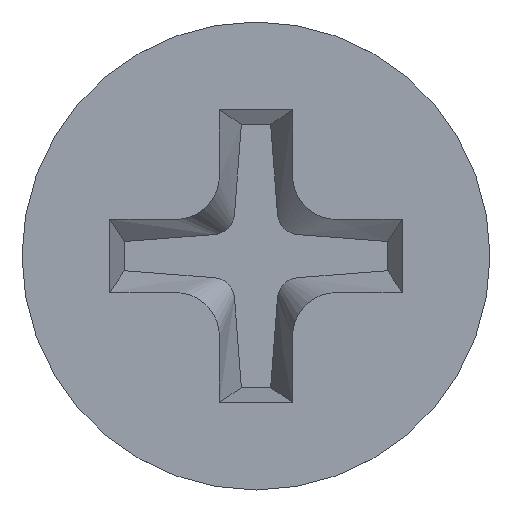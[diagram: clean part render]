
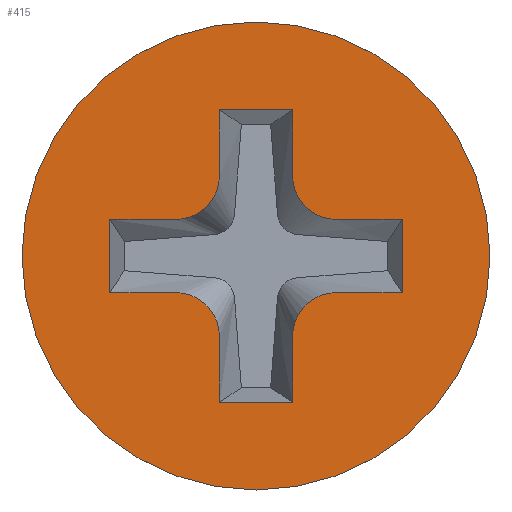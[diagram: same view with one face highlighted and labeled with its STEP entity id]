
A CAD part, top view. The second image highlights one B-rep face of the part: STEP entity #415.
In plain terms, the highlighted planar face has unit normal (0, 0, 1).
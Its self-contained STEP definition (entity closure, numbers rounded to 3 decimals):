
#4 = VERTEX_POINT ( 'NONE', #582 ) ;
#8 = CARTESIAN_POINT ( 'NONE',  ( -1., 0.25, 0.6 ) ) ;
#20 = EDGE_CURVE ( 'NONE', #82, #313, #211, .T. ) ;
#21 = CARTESIAN_POINT ( 'NONE',  ( 0.25, -1., 0.6 ) ) ;
#23 = DIRECTION ( 'NONE',  ( 1., 0., 0. ) ) ;
#26 = CARTESIAN_POINT ( 'NONE',  ( 1., -0.25, 0.6 ) ) ;
#52 = VECTOR ( 'NONE', #564, 1000. ) ;
#60 = VECTOR ( 'NONE', #641, 1000. ) ;
#73 = ORIENTED_EDGE ( 'NONE', *, *, #208, .F. ) ;
#82 = VERTEX_POINT ( 'NONE', #90 ) ;
#85 = DIRECTION ( 'NONE',  ( 0., 0., -1. ) ) ;
#90 = CARTESIAN_POINT ( 'NONE',  ( -0.55, 0.25, 0.6 ) ) ;
#116 = AXIS2_PLACEMENT_3D ( 'NONE', #256, #634, #756 ) ;
#120 = ORIENTED_EDGE ( 'NONE', *, *, #334, .F. ) ;
#126 = CARTESIAN_POINT ( 'NONE',  ( 0.25, 0.55, 0.6 ) ) ;
#128 = VECTOR ( 'NONE', #308, 1000. ) ;
#141 = DIRECTION ( 'NONE',  ( 1., 0., 0. ) ) ;
#145 = VERTEX_POINT ( 'NONE', #738 ) ;
#146 = CARTESIAN_POINT ( 'NONE',  ( 0.55, -0.55, 0.6 ) ) ;
#149 = VERTEX_POINT ( 'NONE', #802 ) ;
#150 = FACE_OUTER_BOUND ( 'NONE', #164, .T. ) ;
#155 = DIRECTION ( 'NONE',  ( 0., 0., 1. ) ) ;
#156 = EDGE_CURVE ( 'NONE', #149, #207, #642, .T. ) ;
#159 = LINE ( 'NONE', #355, #182 ) ;
#164 = EDGE_LOOP ( 'NONE', ( #813, #640 ) ) ;
#182 = VECTOR ( 'NONE', #547, 1000. ) ;
#184 = CARTESIAN_POINT ( 'NONE',  ( -0.25, -0.55, 0.6 ) ) ;
#198 = ORIENTED_EDGE ( 'NONE', *, *, #484, .F. ) ;
#205 = VERTEX_POINT ( 'NONE', #550 ) ;
#207 = VERTEX_POINT ( 'NONE', #810 ) ;
#208 = EDGE_CURVE ( 'NONE', #703, #145, #680, .T. ) ;
#211 = LINE ( 'NONE', #460, #229 ) ;
#217 = DIRECTION ( 'NONE',  ( 0., 0., 1. ) ) ;
#218 = DIRECTION ( 'NONE',  ( -1., 0., 0. ) ) ;
#221 = DIRECTION ( 'NONE',  ( 1., 0., 0. ) ) ;
#229 = VECTOR ( 'NONE', #669, 1000. ) ;
#230 = CIRCLE ( 'NONE', #116, 0.3 ) ;
#240 = CARTESIAN_POINT ( 'NONE',  ( -1., -0.25, 0.6 ) ) ;
#254 = VECTOR ( 'NONE', #221, 1000. ) ;
#256 = CARTESIAN_POINT ( 'NONE',  ( -0.55, -0.55, 0.6 ) ) ;
#258 = CARTESIAN_POINT ( 'NONE',  ( -1., 0.25, 0.6 ) ) ;
#262 = VECTOR ( 'NONE', #141, 1000. ) ;
#271 = EDGE_CURVE ( 'NONE', #722, #543, #501, .T. ) ;
#278 = DIRECTION ( 'NONE',  ( 1., 0., 0. ) ) ;
#287 = FACE_BOUND ( 'NONE', #392, .T. ) ;
#307 = CARTESIAN_POINT ( 'NONE',  ( 0.25, -1., 0.6 ) ) ;
#308 = DIRECTION ( 'NONE',  ( 0., -1., 0. ) ) ;
#311 = EDGE_CURVE ( 'NONE', #205, #411, #704, .T. ) ;
#313 = VERTEX_POINT ( 'NONE', #8 ) ;
#316 = EDGE_CURVE ( 'NONE', #411, #580, #393, .T. ) ;
#317 = DIRECTION ( 'NONE',  ( 1., 0., 0. ) ) ;
#322 = ORIENTED_EDGE ( 'NONE', *, *, #661, .F. ) ;
#325 = AXIS2_PLACEMENT_3D ( 'NONE', #764, #586, #278 ) ;
#328 = ORIENTED_EDGE ( 'NONE', *, *, #607, .F. ) ;
#331 = VECTOR ( 'NONE', #797, 1000. ) ;
#332 = DIRECTION ( 'NONE',  ( 0., 0., -1. ) ) ;
#334 = EDGE_CURVE ( 'NONE', #397, #350, #367, .T. ) ;
#337 = ORIENTED_EDGE ( 'NONE', *, *, #20, .F. ) ;
#343 = CARTESIAN_POINT ( 'NONE',  ( 0., 0., 0.6 ) ) ;
#350 = VERTEX_POINT ( 'NONE', #126 ) ;
#353 = CARTESIAN_POINT ( 'NONE',  ( 0., 0., 0.6 ) ) ;
#355 = CARTESIAN_POINT ( 'NONE',  ( 0.25, 0.55, 0.6 ) ) ;
#356 = CIRCLE ( 'NONE', #432, 0.3 ) ;
#359 = DIRECTION ( 'NONE',  ( 0., 0., 1. ) ) ;
#361 = VECTOR ( 'NONE', #503, 1000. ) ;
#367 = CIRCLE ( 'NONE', #325, 0.3 ) ;
#373 = VERTEX_POINT ( 'NONE', #519 ) ;
#376 = EDGE_CURVE ( 'NONE', #373, #205, #356, .T. ) ;
#377 = LINE ( 'NONE', #258, #361 ) ;
#379 = LINE ( 'NONE', #627, #536 ) ;
#382 = ORIENTED_EDGE ( 'NONE', *, *, #311, .F. ) ;
#385 = CARTESIAN_POINT ( 'NONE',  ( 1., 0.25, 0.6 ) ) ;
#390 = CARTESIAN_POINT ( 'NONE',  ( -0.55, 0.55, 0.6 ) ) ;
#391 = EDGE_CURVE ( 'NONE', #580, #397, #379, .T. ) ;
#392 = EDGE_LOOP ( 'NONE', ( #601, #322, #73, #328, #198, #820, #337, #596, #718, #711, #446, #120, #766, #499, #382, #698 ) ) ;
#393 = LINE ( 'NONE', #510, #60 ) ;
#397 = VERTEX_POINT ( 'NONE', #538 ) ;
#398 = DIRECTION ( 'NONE',  ( 0., -1., 0. ) ) ;
#399 = EDGE_CURVE ( 'NONE', #350, #643, #159, .T. ) ;
#400 = VERTEX_POINT ( 'NONE', #714 ) ;
#401 = LINE ( 'NONE', #21, #331 ) ;
#409 = DIRECTION ( 'NONE',  ( 1., 0., 0. ) ) ;
#410 = CIRCLE ( 'NONE', #542, 0.3 ) ;
#411 = VERTEX_POINT ( 'NONE', #26 ) ;
#415 = ADVANCED_FACE ( 'NONE', ( #287, #150 ), #417, .T. ) ;
#417 = PLANE ( 'NONE',  #790 ) ;
#432 = AXIS2_PLACEMENT_3D ( 'NONE', #146, #85, #23 ) ;
#438 = DIRECTION ( 'NONE',  ( 1., 0., 0. ) ) ;
#446 = ORIENTED_EDGE ( 'NONE', *, *, #399, .F. ) ;
#460 = CARTESIAN_POINT ( 'NONE',  ( -0.55, 0.25, 0.6 ) ) ;
#470 = LINE ( 'NONE', #727, #254 ) ;
#475 = VECTOR ( 'NONE', #438, 1000. ) ;
#479 = CARTESIAN_POINT ( 'NONE',  ( -0.25, -0.55, 0.6 ) ) ;
#484 = EDGE_CURVE ( 'NONE', #400, #4, #679, .T. ) ;
#499 = ORIENTED_EDGE ( 'NONE', *, *, #316, .F. ) ;
#501 = LINE ( 'NONE', #675, #710 ) ;
#503 = DIRECTION ( 'NONE',  ( 0., -1., 0. ) ) ;
#510 = CARTESIAN_POINT ( 'NONE',  ( 1., -0.25, 0.6 ) ) ;
#518 = VERTEX_POINT ( 'NONE', #307 ) ;
#519 = CARTESIAN_POINT ( 'NONE',  ( 0.25, -0.55, 0.6 ) ) ;
#526 = CIRCLE ( 'NONE', #617, 1.6 ) ;
#529 = CARTESIAN_POINT ( 'NONE',  ( 0., 0., 0.6 ) ) ;
#536 = VECTOR ( 'NONE', #218, 1000. ) ;
#538 = CARTESIAN_POINT ( 'NONE',  ( 0.55, 0.25, 0.6 ) ) ;
#542 = AXIS2_PLACEMENT_3D ( 'NONE', #390, #332, #317 ) ;
#543 = VERTEX_POINT ( 'NONE', #737 ) ;
#547 = DIRECTION ( 'NONE',  ( 0., 1., 0. ) ) ;
#550 = CARTESIAN_POINT ( 'NONE',  ( 0.55, -0.25, 0.6 ) ) ;
#561 = AXIS2_PLACEMENT_3D ( 'NONE', #343, #155, #409 ) ;
#564 = DIRECTION ( 'NONE',  ( -1., 0., 0. ) ) ;
#571 = CARTESIAN_POINT ( 'NONE',  ( 0.55, -0.25, 0.6 ) ) ;
#579 = LINE ( 'NONE', #773, #52 ) ;
#580 = VERTEX_POINT ( 'NONE', #385 ) ;
#582 = CARTESIAN_POINT ( 'NONE',  ( -0.55, -0.25, 0.6 ) ) ;
#584 = CARTESIAN_POINT ( 'NONE',  ( -0.25, 1., 0.6 ) ) ;
#586 = DIRECTION ( 'NONE',  ( 0., 0., -1. ) ) ;
#588 = EDGE_CURVE ( 'NONE', #313, #400, #377, .T. ) ;
#589 = CARTESIAN_POINT ( 'NONE',  ( 0.25, 1., 0.6 ) ) ;
#596 = ORIENTED_EDGE ( 'NONE', *, *, #624, .F. ) ;
#601 = ORIENTED_EDGE ( 'NONE', *, *, #701, .F. ) ;
#607 = EDGE_CURVE ( 'NONE', #4, #703, #230, .T. ) ;
#617 = AXIS2_PLACEMENT_3D ( 'NONE', #353, #217, #721 ) ;
#624 = EDGE_CURVE ( 'NONE', #543, #82, #410, .T. ) ;
#627 = CARTESIAN_POINT ( 'NONE',  ( 1., 0.25, 0.6 ) ) ;
#634 = DIRECTION ( 'NONE',  ( 0., 0., -1. ) ) ;
#639 = EDGE_CURVE ( 'NONE', #643, #722, #579, .T. ) ;
#640 = ORIENTED_EDGE ( 'NONE', *, *, #767, .T. ) ;
#641 = DIRECTION ( 'NONE',  ( 0., 1., 0. ) ) ;
#642 = CIRCLE ( 'NONE', #561, 1.6 ) ;
#643 = VERTEX_POINT ( 'NONE', #589 ) ;
#661 = EDGE_CURVE ( 'NONE', #145, #518, #470, .T. ) ;
#669 = DIRECTION ( 'NONE',  ( -1., 0., 0. ) ) ;
#675 = CARTESIAN_POINT ( 'NONE',  ( -0.25, 1., 0.6 ) ) ;
#679 = LINE ( 'NONE', #240, #475 ) ;
#680 = LINE ( 'NONE', #184, #128 ) ;
#698 = ORIENTED_EDGE ( 'NONE', *, *, #376, .F. ) ;
#701 = EDGE_CURVE ( 'NONE', #518, #373, #401, .T. ) ;
#703 = VERTEX_POINT ( 'NONE', #479 ) ;
#704 = LINE ( 'NONE', #571, #262 ) ;
#710 = VECTOR ( 'NONE', #398, 1000. ) ;
#711 = ORIENTED_EDGE ( 'NONE', *, *, #639, .F. ) ;
#714 = CARTESIAN_POINT ( 'NONE',  ( -1., -0.25, 0.6 ) ) ;
#718 = ORIENTED_EDGE ( 'NONE', *, *, #271, .F. ) ;
#721 = DIRECTION ( 'NONE',  ( 1., 0., 0. ) ) ;
#722 = VERTEX_POINT ( 'NONE', #584 ) ;
#727 = CARTESIAN_POINT ( 'NONE',  ( -0.25, -1., 0.6 ) ) ;
#729 = DIRECTION ( 'NONE',  ( 1., 0., 0. ) ) ;
#737 = CARTESIAN_POINT ( 'NONE',  ( -0.25, 0.55, 0.6 ) ) ;
#738 = CARTESIAN_POINT ( 'NONE',  ( -0.25, -1., 0.6 ) ) ;
#756 = DIRECTION ( 'NONE',  ( 1., 0., 0. ) ) ;
#764 = CARTESIAN_POINT ( 'NONE',  ( 0.55, 0.55, 0.6 ) ) ;
#766 = ORIENTED_EDGE ( 'NONE', *, *, #391, .F. ) ;
#767 = EDGE_CURVE ( 'NONE', #207, #149, #526, .T. ) ;
#773 = CARTESIAN_POINT ( 'NONE',  ( 0.25, 1., 0.6 ) ) ;
#790 = AXIS2_PLACEMENT_3D ( 'NONE', #529, #359, #729 ) ;
#797 = DIRECTION ( 'NONE',  ( 0., 1., 0. ) ) ;
#802 = CARTESIAN_POINT ( 'NONE',  ( -1.6, 0., 0.6 ) ) ;
#810 = CARTESIAN_POINT ( 'NONE',  ( 1.6, 0., 0.6 ) ) ;
#813 = ORIENTED_EDGE ( 'NONE', *, *, #156, .T. ) ;
#820 = ORIENTED_EDGE ( 'NONE', *, *, #588, .F. ) ;
